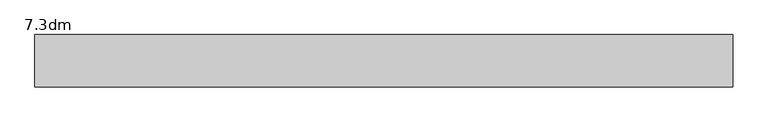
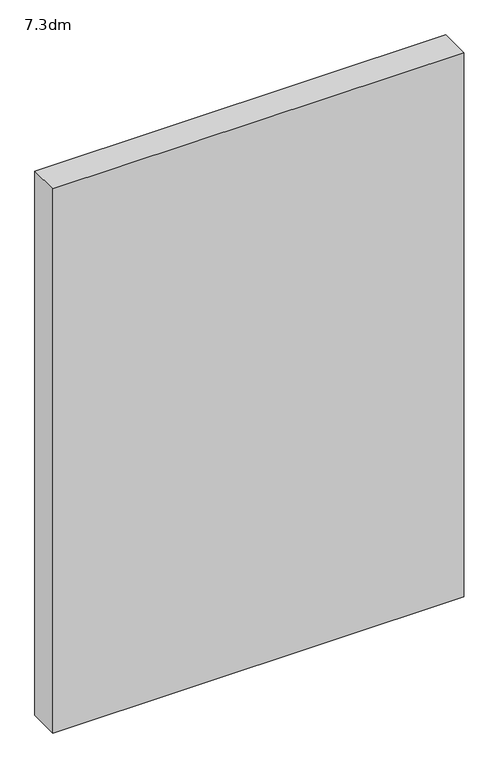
"""IFC4 building model written with IfcOpenShell, lengths in millimetres: proxy geometry, 7.3dm."""

from ifc_helpers import new_model, si_unit, origin, origin_with_axes, place, context, project, spatial, polyline, outline, extrude, source, transform, mapped, element, save


def proxy_7_3dm_0c6f1c2f(model_context):
    return source(origin(), model_context, "Body", "SweptSolid", [
        extrude(outline(polyline([(13658.7518258, 6.0), (13658.7518258, 156.0), (15658.7518258, 156.0), (15658.7518258, 6.0), (13658.7518258, 6.0)])), origin_with_axes(), (0.0, 0.0, 1.0), 2800.0),
    ])


if __name__ == "__main__":
    model = new_model("IFC4")
    model_context = context("Model", 3, world=origin())
    ifc_project = project(units=[si_unit("LENGTHUNIT", "METRE", prefix="MILLI")], contexts=[model_context])
    site = spatial("IfcSite", under=ifc_project)
    building = spatial("IfcBuilding", under=site)
    placement = place(None, origin())
    proxy_7_3dm_shape = proxy_7_3dm_0c6f1c2f(model_context)
    element("IfcBuildingElementProxy", 1, Name="7.3dm", ObjectType="7.3dm", at=placement, inside=building, context=model_context, shape_type="MappedRepresentation", body=[
        mapped(proxy_7_3dm_shape, transform((0.0, 0.0, 0.0), x_axis=(1.0, 0.0, 0.0), y_axis=(0.0, 1.0, 0.0), z_axis=(0.0, 0.0, 1.0))),
    ])
    save(model, "model.ifc")
